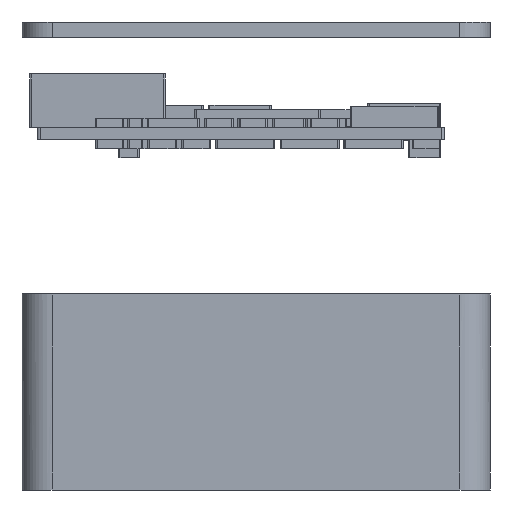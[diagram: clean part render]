
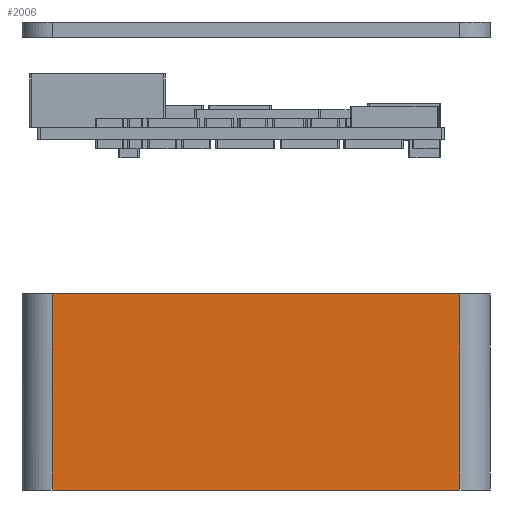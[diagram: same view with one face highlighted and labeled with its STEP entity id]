
A CAD part, left-side view. The second image highlights one B-rep face of the part: STEP entity #2006.
In plain terms, the highlighted planar face has unit normal (-1, 0, 0).
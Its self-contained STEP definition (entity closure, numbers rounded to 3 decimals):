
#11=DIRECTION('',(0.0,0.0,1.0));
#169=CARTESIAN_POINT('',(0.,2.,13.));
#170=VERTEX_POINT('',#169);
#174=DIRECTION('',(0.,1.0,0.0));
#175=VECTOR('',#174,27.);
#176=LINE('',#169,#175);
#177=CARTESIAN_POINT('',(0.,29.,13.));
#178=VERTEX_POINT('',#177);
#179=EDGE_CURVE('',#170,#178,#176,.T.);
#913=CARTESIAN_POINT('',(0.,29.,0.0));
#914=VERTEX_POINT('',#913);
#917=DIRECTION('',(0.,-1.0,0.0));
#918=VECTOR('',#917,27.);
#919=LINE('',#913,#918);
#920=CARTESIAN_POINT('',(0.,2.,0.0));
#921=VERTEX_POINT('',#920);
#922=EDGE_CURVE('',#914,#921,#919,.T.);
#940=VECTOR('',#11,4.1);
#970=VECTOR('',#11,7.0);
#1062=VECTOR('',#11,0.1);
#1093=VECTOR('',#11,0.6);
#1424=VECTOR('',#11,1.1);
#1430=VECTOR('',#11,0.1);
#1934=LINE('',#920,#1424);
#1935=CARTESIAN_POINT('',(0.,2.,1.1));
#1936=VERTEX_POINT('',#1935);
#1937=EDGE_CURVE('',#921,#1936,#1934,.T.);
#1939=LINE('',#1935,#1430);
#1940=CARTESIAN_POINT('',(0.,2.,1.2));
#1941=VERTEX_POINT('',#1940);
#1942=EDGE_CURVE('',#1936,#1941,#1939,.T.);
#1944=LINE('',#1940,#970);
#1945=CARTESIAN_POINT('',(0.,2.,8.2));
#1946=VERTEX_POINT('',#1945);
#1947=EDGE_CURVE('',#1941,#1946,#1944,.T.);
#1949=LINE('',#1945,#1093);
#1950=CARTESIAN_POINT('',(0.,2.,8.8));
#1951=VERTEX_POINT('',#1950);
#1952=EDGE_CURVE('',#1946,#1951,#1949,.T.);
#1954=LINE('',#1950,#940);
#1955=CARTESIAN_POINT('',(0.,2.,12.9));
#1956=VERTEX_POINT('',#1955);
#1957=EDGE_CURVE('',#1951,#1956,#1954,.T.);
#1959=LINE('',#1955,#1062);
#1960=EDGE_CURVE('',#1956,#170,#1959,.T.);
#1965=DIRECTION('',(-1.,0.,0.0));
#1966=AXIS2_PLACEMENT_3D('',#913,#1965,#917);
#1967=PLANE('',#1966);
#1968=ORIENTED_EDGE('',*,*,#179,.T.);
#1969=ORIENTED_EDGE('',*,*,#1960,.T.);
#1970=ORIENTED_EDGE('',*,*,#1957,.T.);
#1971=ORIENTED_EDGE('',*,*,#1952,.T.);
#1972=ORIENTED_EDGE('',*,*,#1947,.T.);
#1973=ORIENTED_EDGE('',*,*,#1942,.T.);
#1974=ORIENTED_EDGE('',*,*,#1937,.T.);
#1975=ORIENTED_EDGE('',*,*,#922,.T.);
#1976=LINE('',#913,#1424);
#1977=CARTESIAN_POINT('',(0.,29.,1.1));
#1978=VERTEX_POINT('',#1977);
#1979=EDGE_CURVE('',#914,#1978,#1976,.T.);
#1980=ORIENTED_EDGE('',*,*,#1979,.F.);
#1981=LINE('',#1977,#1430);
#1982=CARTESIAN_POINT('',(0.,29.,1.2));
#1983=VERTEX_POINT('',#1982);
#1984=EDGE_CURVE('',#1978,#1983,#1981,.T.);
#1985=ORIENTED_EDGE('',*,*,#1984,.F.);
#1986=LINE('',#1982,#970);
#1987=CARTESIAN_POINT('',(0.,29.,8.2));
#1988=VERTEX_POINT('',#1987);
#1989=EDGE_CURVE('',#1983,#1988,#1986,.T.);
#1990=ORIENTED_EDGE('',*,*,#1989,.F.);
#1991=LINE('',#1987,#1093);
#1992=CARTESIAN_POINT('',(0.,29.,8.8));
#1993=VERTEX_POINT('',#1992);
#1994=EDGE_CURVE('',#1988,#1993,#1991,.T.);
#1995=ORIENTED_EDGE('',*,*,#1994,.F.);
#1996=LINE('',#1992,#940);
#1997=CARTESIAN_POINT('',(0.,29.,12.9));
#1998=VERTEX_POINT('',#1997);
#1999=EDGE_CURVE('',#1993,#1998,#1996,.T.);
#2000=ORIENTED_EDGE('',*,*,#1999,.F.);
#2001=LINE('',#1997,#1062);
#2002=EDGE_CURVE('',#1998,#178,#2001,.T.);
#2003=ORIENTED_EDGE('',*,*,#2002,.F.);
#2004=EDGE_LOOP('',(#2003,#2000,#1995,#1990,#1985,#1980,#1975,#1974,#1973,#1972,#1971,#1970,#1969,#1968));
#2005=FACE_BOUND('',#2004,.T.);
#2006=ADVANCED_FACE('',(#2005),#1967,.T.);
